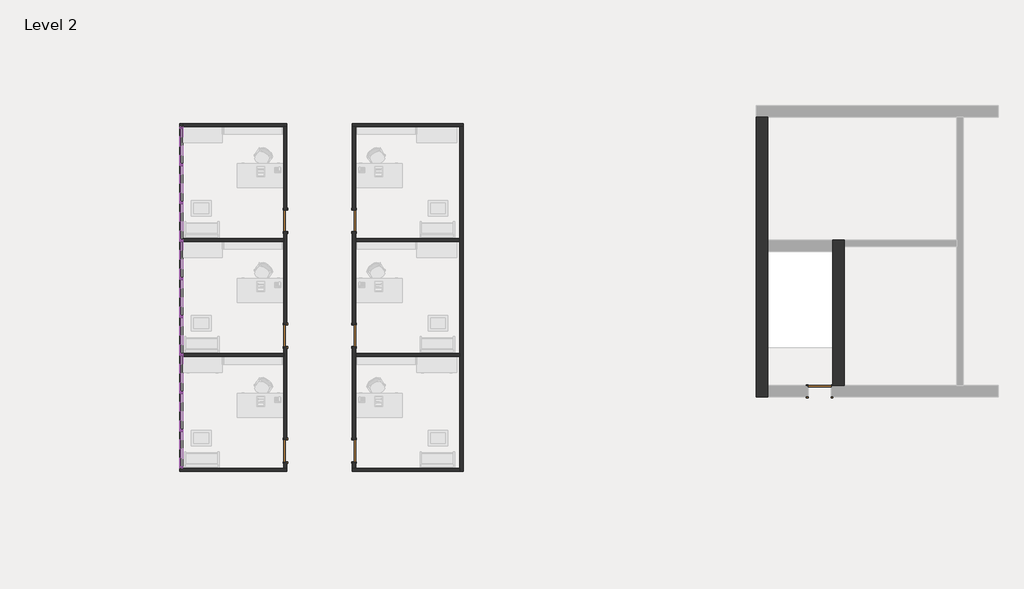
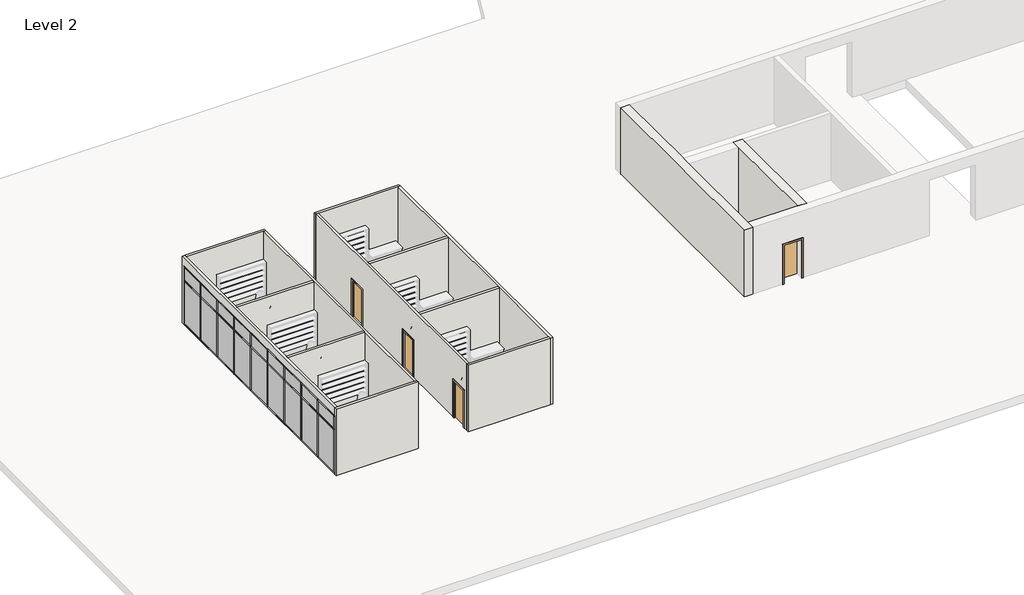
# One storey, part 1 of 2: 47 members, 18 plates, 14 walls, 7 doors.
"""IFC4 building model written with IfcOpenShell, lengths in millimetres."""

from ifc_helpers import new_model, si_unit, frame, origin, place, context, project, spatial, polyline, outline, extrude, faceted_brep, transform, mapped, element, save
from components import door_82111de5, door_92889684, door_3c99239a, member_fc09b6aa, member_9597caa3, member_b2bde9e6, member_131a91bd, member_8e4b14e5, member_ef392650, member_3251410a, system_panel_glazed_f771dc8d, system_panel_glazed_f1d9fa5b, system_panel_glazed_43c0bd6e, system_panel_glazed_38f416ca

model = new_model("IFC4")

# Units and contexts
model_context = context("Model", 3, world=origin())
ifc_project = project(units=[si_unit("LENGTHUNIT", "METRE", prefix="MILLI")], contexts=[model_context])

# Site, building, storey
site = spatial("IfcSite", under=ifc_project)
building = spatial("IfcBuilding", under=site)
storey = spatial("IfcBuildingStorey", under=building, Name="Level 2", Elevation=3657.6)

# Doors
placement = place(None, origin())
door_shape = door_82111de5(model_context)
element("IfcDoor", 1, ObjectType="Single-Flush : 34\" x 80\"", at=placement, inside=storey, context=model_context, shape_type="MappedRepresentation", body=[
    mapped(door_shape, transform((-51923.5856498, -16957.0103492, 3657.6), x_axis=(0.0, -1.0, 0.0), y_axis=(1.0, 0.0, 0.0), z_axis=(0.0, 0.0, 1.0))),
])
element("IfcDoor", 2, ObjectType="Single-Flush : 34\" x 80\"", at=placement, inside=storey, context=model_context, shape_type="MappedRepresentation", body=[
    mapped(door_shape, transform((-51923.5856498, -12385.0103492, 3657.6), x_axis=(0.0, -1.0, 0.0), y_axis=(1.0, 0.0, 0.0), z_axis=(0.0, 0.0, 1.0))),
])
element("IfcDoor", 3, ObjectType="Single-Flush : 34\" x 80\"", at=placement, inside=storey, context=model_context, shape_type="MappedRepresentation", body=[
    mapped(door_shape, transform((-51923.5856498, -7813.0103492, 3657.6), x_axis=(0.0, -1.0, 0.0), y_axis=(1.0, 0.0, 0.0), z_axis=(0.0, 0.0, 1.0))),
])
door_2_shape = door_92889684(model_context)
element("IfcDoor", 4, ObjectType="Single-Flush : 34\" x 80\"", at=placement, inside=storey, context=model_context, shape_type="MappedRepresentation", body=[
    mapped(door_2_shape, transform((-49194.8999355, -16957.0103492, 3657.6), x_axis=(0.0, -1.0, 0.0), y_axis=(1.0, 0.0, 0.0), z_axis=(0.0, 0.0, 1.0))),
])
element("IfcDoor", 5, ObjectType="Single-Flush : 34\" x 80\"", at=placement, inside=storey, context=model_context, shape_type="MappedRepresentation", body=[
    mapped(door_2_shape, transform((-49194.8999355, -12385.0103492, 3657.6), x_axis=(0.0, -1.0, 0.0), y_axis=(1.0, 0.0, 0.0), z_axis=(0.0, 0.0, 1.0))),
])
element("IfcDoor", 6, ObjectType="Single-Flush : 34\" x 80\"", at=placement, inside=storey, context=model_context, shape_type="MappedRepresentation", body=[
    mapped(door_2_shape, transform((-49194.8999355, -7813.0103492, 3657.6), x_axis=(0.0, -1.0, 0.0), y_axis=(1.0, 0.0, 0.0), z_axis=(0.0, 0.0, 1.0))),
])
door_3_shape = door_3c99239a(model_context)
element("IfcDoor", 7, ObjectType="Single-Flush : 36\" x 84\"", at=placement, inside=storey, context=model_context, shape_type="MappedRepresentation", body=[
    mapped(door_3_shape, transform((-30700.0713641, -14594.8103492, 3657.6), x_axis=(1.0, 0.0, 0.0), y_axis=(0.0, 1.0, 0.0), z_axis=(0.0, 0.0, 1.0))),
])

# Members
member_shape = member_fc09b6aa(model_context)
element("IfcMember", 8, ObjectType="Rectangular Mullion : 2.5\" x 5\" rectangular", at=placement, inside=storey, context=model_context, shape_type="MappedRepresentation", body=[
    mapped(member_shape, transform((-56063.7856498, -14635.7325714, 6096.0), x_axis=(0.0, 0.0, 1.0), y_axis=(1.0, 0.0, 0.0), z_axis=(0.0, 1.0, 0.0))),
])
element("IfcMember", 9, ObjectType="Rectangular Mullion : 2.5\" x 5\" rectangular", at=placement, inside=storey, context=model_context, shape_type="MappedRepresentation", body=[
    mapped(member_shape, transform((-56063.7856498, -13125.8436825, 6096.0), x_axis=(0.0, 0.0, 1.0), y_axis=(1.0, 0.0, 0.0), z_axis=(0.0, 1.0, 0.0))),
])
element("IfcMember", 10, ObjectType="Rectangular Mullion : 2.5\" x 5\" rectangular", at=placement, inside=storey, context=model_context, shape_type="MappedRepresentation", body=[
    mapped(member_shape, transform((-56063.7856498, -11615.9547936, 6096.0), x_axis=(0.0, 0.0, 1.0), y_axis=(1.0, 0.0, 0.0), z_axis=(0.0, 1.0, 0.0))),
])
element("IfcMember", 11, ObjectType="Rectangular Mullion : 2.5\" x 5\" rectangular", at=placement, inside=storey, context=model_context, shape_type="MappedRepresentation", body=[
    mapped(member_shape, transform((-56063.7856498, -10106.0659048, 6096.0), x_axis=(0.0, 0.0, 1.0), y_axis=(1.0, 0.0, 0.0), z_axis=(0.0, 1.0, 0.0))),
])
element("IfcMember", 12, ObjectType="Rectangular Mullion : 2.5\" x 5\" rectangular", at=placement, inside=storey, context=model_context, shape_type="MappedRepresentation", body=[
    mapped(member_shape, transform((-56063.7856498, -8596.1770159, 6096.0), x_axis=(0.0, 0.0, 1.0), y_axis=(1.0, 0.0, 0.0), z_axis=(0.0, 1.0, 0.0))),
])
element("IfcMember", 13, ObjectType="Rectangular Mullion : 2.5\" x 5\" rectangular", at=placement, inside=storey, context=model_context, shape_type="MappedRepresentation", body=[
    mapped(member_shape, transform((-56063.7856498, -7086.288127, 6096.0), x_axis=(0.0, 0.0, 1.0), y_axis=(1.0, 0.0, 0.0), z_axis=(0.0, 1.0, 0.0))),
])
element("IfcMember", 14, ObjectType="Rectangular Mullion : 2.5\" x 5\" rectangular", at=placement, inside=storey, context=model_context, shape_type="MappedRepresentation", body=[
    mapped(member_shape, transform((-56063.7856498, -5576.3992381, 6096.0), x_axis=(0.0, 0.0, 1.0), y_axis=(1.0, 0.0, 0.0), z_axis=(0.0, 1.0, 0.0))),
])
member_2_shape = member_9597caa3(model_context)
element("IfcMember", 15, ObjectType="Rectangular Mullion : 2.5\" x 5\" rectangular", at=placement, inside=storey, context=model_context, shape_type="MappedRepresentation", body=[
    mapped(member_2_shape, transform((-56063.7856498, -16145.6214603, 3721.1), x_axis=(0.0, 1.0, 0.0), y_axis=(1.0, 0.0, 0.0), z_axis=(0.0, 0.0, -1.0))),
])
element("IfcMember", 16, ObjectType="Rectangular Mullion : 2.5\" x 5\" rectangular", at=placement, inside=storey, context=model_context, shape_type="MappedRepresentation", body=[
    mapped(member_2_shape, transform((-56063.7856498, -14635.7325714, 3721.1), x_axis=(0.0, 1.0, 0.0), y_axis=(1.0, 0.0, 0.0), z_axis=(0.0, 0.0, -1.0))),
])
element("IfcMember", 17, ObjectType="Rectangular Mullion : 2.5\" x 5\" rectangular", at=placement, inside=storey, context=model_context, shape_type="MappedRepresentation", body=[
    mapped(member_2_shape, transform((-56063.7856498, -13125.8436825, 3721.1), x_axis=(0.0, 1.0, 0.0), y_axis=(1.0, 0.0, 0.0), z_axis=(0.0, 0.0, -1.0))),
])
element("IfcMember", 18, ObjectType="Rectangular Mullion : 2.5\" x 5\" rectangular", at=placement, inside=storey, context=model_context, shape_type="MappedRepresentation", body=[
    mapped(member_2_shape, transform((-56063.7856498, -11615.9547936, 3721.1), x_axis=(0.0, 1.0, 0.0), y_axis=(1.0, 0.0, 0.0), z_axis=(0.0, 0.0, -1.0))),
])
element("IfcMember", 19, ObjectType="Rectangular Mullion : 2.5\" x 5\" rectangular", at=placement, inside=storey, context=model_context, shape_type="MappedRepresentation", body=[
    mapped(member_2_shape, transform((-56063.7856498, -10106.0659048, 3721.1), x_axis=(0.0, 1.0, 0.0), y_axis=(1.0, 0.0, 0.0), z_axis=(0.0, 0.0, -1.0))),
])
element("IfcMember", 20, ObjectType="Rectangular Mullion : 2.5\" x 5\" rectangular", at=placement, inside=storey, context=model_context, shape_type="MappedRepresentation", body=[
    mapped(member_2_shape, transform((-56063.7856498, -8596.1770159, 3721.1), x_axis=(0.0, 1.0, 0.0), y_axis=(1.0, 0.0, 0.0), z_axis=(0.0, 0.0, -1.0))),
])
element("IfcMember", 21, ObjectType="Rectangular Mullion : 2.5\" x 5\" rectangular", at=placement, inside=storey, context=model_context, shape_type="MappedRepresentation", body=[
    mapped(member_2_shape, transform((-56063.7856498, -7086.288127, 3721.1), x_axis=(0.0, 1.0, 0.0), y_axis=(1.0, 0.0, 0.0), z_axis=(0.0, 0.0, -1.0))),
])
element("IfcMember", 22, ObjectType="Rectangular Mullion : 2.5\" x 5\" rectangular", at=placement, inside=storey, context=model_context, shape_type="MappedRepresentation", body=[
    mapped(member_2_shape, transform((-56063.7856498, -5576.3992381, 3721.1), x_axis=(0.0, 1.0, 0.0), y_axis=(1.0, 0.0, 0.0), z_axis=(0.0, 0.0, -1.0))),
])
member_3_shape = member_b2bde9e6(model_context)
element("IfcMember", 23, ObjectType="Rectangular Mullion : 2.5\" x 5\" rectangular", at=placement, inside=storey, context=model_context, shape_type="MappedRepresentation", body=[
    mapped(member_3_shape, transform((-56063.7856498, -4066.5103492, 3721.1), x_axis=(0.0, 1.0, 0.0), y_axis=(1.0, 0.0, 0.0), z_axis=(0.0, 0.0, -1.0))),
])
element("IfcMember", 24, ObjectType="Rectangular Mullion : 2.5\" x 5\" rectangular", at=placement, inside=storey, context=model_context, shape_type="MappedRepresentation", body=[
    mapped(member_3_shape, transform((-56063.7856498, -17655.5103492, 6096.0), x_axis=(0.0, -1.0, 0.0), y_axis=(1.0, 0.0, 0.0), z_axis=(0.0, 0.0, 1.0))),
])
member_4_shape = member_131a91bd(model_context)
element("IfcMember", 25, ObjectType="Rectangular Mullion : 2.5\" x 5\" rectangular", at=placement, inside=storey, context=model_context, shape_type="MappedRepresentation", body=[
    mapped(member_4_shape, transform((-56063.7856498, -4066.5103492, 6883.4), x_axis=(0.0, 0.0, 1.0), y_axis=(1.0, 0.0, 0.0), z_axis=(0.0, 1.0, 0.0))),
])
element("IfcMember", 26, ObjectType="Rectangular Mullion : 2.5\" x 5\" rectangular", at=placement, inside=storey, context=model_context, shape_type="MappedRepresentation", body=[
    mapped(member_4_shape, transform((-56063.7856498, -16145.6214603, 6883.4), x_axis=(0.0, 0.0, 1.0), y_axis=(1.0, 0.0, 0.0), z_axis=(0.0, 1.0, 0.0))),
])
element("IfcMember", 27, ObjectType="Rectangular Mullion : 2.5\" x 5\" rectangular", at=placement, inside=storey, context=model_context, shape_type="MappedRepresentation", body=[
    mapped(member_4_shape, transform((-56063.7856498, -14635.7325714, 6883.4), x_axis=(0.0, 0.0, 1.0), y_axis=(1.0, 0.0, 0.0), z_axis=(0.0, 1.0, 0.0))),
])
element("IfcMember", 28, ObjectType="Rectangular Mullion : 2.5\" x 5\" rectangular", at=placement, inside=storey, context=model_context, shape_type="MappedRepresentation", body=[
    mapped(member_4_shape, transform((-56063.7856498, -13125.8436825, 6883.4), x_axis=(0.0, 0.0, 1.0), y_axis=(1.0, 0.0, 0.0), z_axis=(0.0, 1.0, 0.0))),
])
element("IfcMember", 29, ObjectType="Rectangular Mullion : 2.5\" x 5\" rectangular", at=placement, inside=storey, context=model_context, shape_type="MappedRepresentation", body=[
    mapped(member_4_shape, transform((-56063.7856498, -11615.9547936, 6883.4), x_axis=(0.0, 0.0, 1.0), y_axis=(1.0, 0.0, 0.0), z_axis=(0.0, 1.0, 0.0))),
])
element("IfcMember", 30, ObjectType="Rectangular Mullion : 2.5\" x 5\" rectangular", at=placement, inside=storey, context=model_context, shape_type="MappedRepresentation", body=[
    mapped(member_4_shape, transform((-56063.7856498, -10106.0659048, 6883.4), x_axis=(0.0, 0.0, 1.0), y_axis=(1.0, 0.0, 0.0), z_axis=(0.0, 1.0, 0.0))),
])
element("IfcMember", 31, ObjectType="Rectangular Mullion : 2.5\" x 5\" rectangular", at=placement, inside=storey, context=model_context, shape_type="MappedRepresentation", body=[
    mapped(member_4_shape, transform((-56063.7856498, -8596.1770159, 6883.4), x_axis=(0.0, 0.0, 1.0), y_axis=(1.0, 0.0, 0.0), z_axis=(0.0, 1.0, 0.0))),
])
element("IfcMember", 32, ObjectType="Rectangular Mullion : 2.5\" x 5\" rectangular", at=placement, inside=storey, context=model_context, shape_type="MappedRepresentation", body=[
    mapped(member_4_shape, transform((-56063.7856498, -7086.288127, 6883.4), x_axis=(0.0, 0.0, 1.0), y_axis=(1.0, 0.0, 0.0), z_axis=(0.0, 1.0, 0.0))),
])
element("IfcMember", 33, ObjectType="Rectangular Mullion : 2.5\" x 5\" rectangular", at=placement, inside=storey, context=model_context, shape_type="MappedRepresentation", body=[
    mapped(member_4_shape, transform((-56063.7856498, -5576.3992381, 6883.4), x_axis=(0.0, 0.0, 1.0), y_axis=(1.0, 0.0, 0.0), z_axis=(0.0, 1.0, 0.0))),
])
element("IfcMember", 34, ObjectType="Rectangular Mullion : 2.5\" x 5\" rectangular", at=placement, inside=storey, context=model_context, shape_type="MappedRepresentation", body=[
    mapped(member_4_shape, transform((-56063.7856498, -17655.5103492, 3657.6), x_axis=(0.0, 0.0, -1.0), y_axis=(1.0, 0.0, 0.0), z_axis=(0.0, -1.0, 0.0))),
])
element("IfcMember", 35, ObjectType="Rectangular Mullion : 2.5\" x 5\" rectangular", at=placement, inside=storey, context=model_context, shape_type="MappedRepresentation", body=[
    mapped(member_4_shape, transform((-56063.7856498, -16145.6214603, 3657.6), x_axis=(0.0, 0.0, -1.0), y_axis=(1.0, 0.0, 0.0), z_axis=(0.0, -1.0, 0.0))),
])
element("IfcMember", 36, ObjectType="Rectangular Mullion : 2.5\" x 5\" rectangular", at=placement, inside=storey, context=model_context, shape_type="MappedRepresentation", body=[
    mapped(member_4_shape, transform((-56063.7856498, -14635.7325714, 3657.6), x_axis=(0.0, 0.0, -1.0), y_axis=(1.0, 0.0, 0.0), z_axis=(0.0, -1.0, 0.0))),
])
element("IfcMember", 37, ObjectType="Rectangular Mullion : 2.5\" x 5\" rectangular", at=placement, inside=storey, context=model_context, shape_type="MappedRepresentation", body=[
    mapped(member_4_shape, transform((-56063.7856498, -13125.8436825, 3657.6), x_axis=(0.0, 0.0, -1.0), y_axis=(1.0, 0.0, 0.0), z_axis=(0.0, -1.0, 0.0))),
])
element("IfcMember", 38, ObjectType="Rectangular Mullion : 2.5\" x 5\" rectangular", at=placement, inside=storey, context=model_context, shape_type="MappedRepresentation", body=[
    mapped(member_4_shape, transform((-56063.7856498, -11615.9547936, 3657.6), x_axis=(0.0, 0.0, -1.0), y_axis=(1.0, 0.0, 0.0), z_axis=(0.0, -1.0, 0.0))),
])
element("IfcMember", 39, ObjectType="Rectangular Mullion : 2.5\" x 5\" rectangular", at=placement, inside=storey, context=model_context, shape_type="MappedRepresentation", body=[
    mapped(member_4_shape, transform((-56063.7856498, -10106.0659048, 3657.6), x_axis=(0.0, 0.0, -1.0), y_axis=(1.0, 0.0, 0.0), z_axis=(0.0, -1.0, 0.0))),
])
element("IfcMember", 40, ObjectType="Rectangular Mullion : 2.5\" x 5\" rectangular", at=placement, inside=storey, context=model_context, shape_type="MappedRepresentation", body=[
    mapped(member_4_shape, transform((-56063.7856498, -8596.1770159, 3657.6), x_axis=(0.0, 0.0, -1.0), y_axis=(1.0, 0.0, 0.0), z_axis=(0.0, -1.0, 0.0))),
])
element("IfcMember", 41, ObjectType="Rectangular Mullion : 2.5\" x 5\" rectangular", at=placement, inside=storey, context=model_context, shape_type="MappedRepresentation", body=[
    mapped(member_4_shape, transform((-56063.7856498, -7086.288127, 3657.6), x_axis=(0.0, 0.0, -1.0), y_axis=(1.0, 0.0, 0.0), z_axis=(0.0, -1.0, 0.0))),
])
element("IfcMember", 42, ObjectType="Rectangular Mullion : 2.5\" x 5\" rectangular", at=placement, inside=storey, context=model_context, shape_type="MappedRepresentation", body=[
    mapped(member_4_shape, transform((-56063.7856498, -5576.3992381, 3657.6), x_axis=(0.0, 0.0, -1.0), y_axis=(1.0, 0.0, 0.0), z_axis=(0.0, -1.0, 0.0))),
])
member_5_shape = member_8e4b14e5(model_context)
element("IfcMember", 43, ObjectType="Rectangular Mullion : 2.5\" x 5\" rectangular", at=placement, inside=storey, context=model_context, shape_type="MappedRepresentation", body=[
    mapped(member_5_shape, transform((-56063.7856498, -16145.6214603, 6096.0), x_axis=(0.0, 0.0, 1.0), y_axis=(1.0, 0.0, 0.0), z_axis=(0.0, 1.0, 0.0))),
])
element("IfcMember", 44, ObjectType="Rectangular Mullion : 2.5\" x 5\" rectangular", at=placement, inside=storey, context=model_context, shape_type="MappedRepresentation", body=[
    mapped(member_5_shape, transform((-56063.7856498, -4130.0103492, 6096.0), x_axis=(0.0, 0.0, 1.0), y_axis=(1.0, 0.0, 0.0), z_axis=(0.0, 1.0, 0.0))),
])
member_6_shape = member_ef392650(model_context)
element("IfcMember", 45, ObjectType="Rectangular Mullion : 2.5\" x 5\" rectangular", at=placement, inside=storey, context=model_context, shape_type="MappedRepresentation", body=[
    mapped(member_6_shape, transform((-56063.7856498, -16145.6214603, 6127.75), x_axis=(0.0, 1.0, 0.0), y_axis=(1.0, 0.0, 0.0), z_axis=(0.0, 0.0, -1.0))),
])
element("IfcMember", 46, ObjectType="Rectangular Mullion : 2.5\" x 5\" rectangular", at=placement, inside=storey, context=model_context, shape_type="MappedRepresentation", body=[
    mapped(member_6_shape, transform((-56063.7856498, -14635.7325714, 6127.75), x_axis=(0.0, 1.0, 0.0), y_axis=(1.0, 0.0, 0.0), z_axis=(0.0, 0.0, -1.0))),
])
element("IfcMember", 47, ObjectType="Rectangular Mullion : 2.5\" x 5\" rectangular", at=placement, inside=storey, context=model_context, shape_type="MappedRepresentation", body=[
    mapped(member_6_shape, transform((-56063.7856498, -13125.8436825, 6127.75), x_axis=(0.0, 1.0, 0.0), y_axis=(1.0, 0.0, 0.0), z_axis=(0.0, 0.0, -1.0))),
])
element("IfcMember", 48, ObjectType="Rectangular Mullion : 2.5\" x 5\" rectangular", at=placement, inside=storey, context=model_context, shape_type="MappedRepresentation", body=[
    mapped(member_6_shape, transform((-56063.7856498, -11615.9547936, 6127.75), x_axis=(0.0, 1.0, 0.0), y_axis=(1.0, 0.0, 0.0), z_axis=(0.0, 0.0, -1.0))),
])
element("IfcMember", 49, ObjectType="Rectangular Mullion : 2.5\" x 5\" rectangular", at=placement, inside=storey, context=model_context, shape_type="MappedRepresentation", body=[
    mapped(member_6_shape, transform((-56063.7856498, -10106.0659048, 6127.75), x_axis=(0.0, 1.0, 0.0), y_axis=(1.0, 0.0, 0.0), z_axis=(0.0, 0.0, -1.0))),
])
element("IfcMember", 50, ObjectType="Rectangular Mullion : 2.5\" x 5\" rectangular", at=placement, inside=storey, context=model_context, shape_type="MappedRepresentation", body=[
    mapped(member_6_shape, transform((-56063.7856498, -8596.1770159, 6127.75), x_axis=(0.0, 1.0, 0.0), y_axis=(1.0, 0.0, 0.0), z_axis=(0.0, 0.0, -1.0))),
])
element("IfcMember", 51, ObjectType="Rectangular Mullion : 2.5\" x 5\" rectangular", at=placement, inside=storey, context=model_context, shape_type="MappedRepresentation", body=[
    mapped(member_6_shape, transform((-56063.7856498, -7086.288127, 6127.75), x_axis=(0.0, 1.0, 0.0), y_axis=(1.0, 0.0, 0.0), z_axis=(0.0, 0.0, -1.0))),
])
element("IfcMember", 52, ObjectType="Rectangular Mullion : 2.5\" x 5\" rectangular", at=placement, inside=storey, context=model_context, shape_type="MappedRepresentation", body=[
    mapped(member_6_shape, transform((-56063.7856498, -5576.3992381, 6127.75), x_axis=(0.0, 1.0, 0.0), y_axis=(1.0, 0.0, 0.0), z_axis=(0.0, 0.0, -1.0))),
])
member_7_shape = member_3251410a(model_context)
element("IfcMember", 53, ObjectType="Rectangular Mullion : 2.5\" x 5\" rectangular", at=placement, inside=storey, context=model_context, shape_type="MappedRepresentation", body=[
    mapped(member_7_shape, transform((-56063.7856498, -4066.5103492, 6096.0), x_axis=(0.0, 1.0, 0.0), y_axis=(1.0, 0.0, 0.0), z_axis=(0.0, 0.0, -1.0))),
])
element("IfcMember", 54, ObjectType="Rectangular Mullion : 2.5\" x 5\" rectangular", at=placement, inside=storey, context=model_context, shape_type="MappedRepresentation", body=[
    mapped(member_7_shape, transform((-56063.7856498, -17655.5103492, 6819.9), x_axis=(0.0, -1.0, 0.0), y_axis=(1.0, 0.0, 0.0), z_axis=(0.0, 0.0, 1.0))),
])

# Plates
system_panel_glazed_shape = system_panel_glazed_f771dc8d(model_context)
element("IfcPlate", 55, ObjectType="System Panel : Glazed", at=placement, inside=storey, context=model_context, shape_type="MappedRepresentation", body=[
    mapped(system_panel_glazed_shape, transform((-56063.7856498, -16884.6909048, 3721.1), x_axis=(0.0, 1.0, 0.0), y_axis=(-1.0, 0.0, 0.0), z_axis=(0.0, 0.0, 1.0))),
])
element("IfcPlate", 56, ObjectType="System Panel : Glazed", at=placement, inside=storey, context=model_context, shape_type="MappedRepresentation", body=[
    mapped(system_panel_glazed_shape, transform((-56063.7856498, -4837.3297936, 3721.1), x_axis=(0.0, 1.0, 0.0), y_axis=(-1.0, 0.0, 0.0), z_axis=(0.0, 0.0, 1.0))),
])
system_panel_glazed_2_shape = system_panel_glazed_f1d9fa5b(model_context)
element("IfcPlate", 57, ObjectType="System Panel : Glazed", at=placement, inside=storey, context=model_context, shape_type="MappedRepresentation", body=[
    mapped(system_panel_glazed_2_shape, transform((-56063.7856498, -15390.6770159, 3721.1), x_axis=(0.0, 1.0, 0.0), y_axis=(-1.0, 0.0, 0.0), z_axis=(0.0, 0.0, 1.0))),
])
element("IfcPlate", 58, ObjectType="System Panel : Glazed", at=placement, inside=storey, context=model_context, shape_type="MappedRepresentation", body=[
    mapped(system_panel_glazed_2_shape, transform((-56063.7856498, -13880.788127, 3721.1), x_axis=(0.0, 1.0, 0.0), y_axis=(-1.0, 0.0, 0.0), z_axis=(0.0, 0.0, 1.0))),
])
element("IfcPlate", 59, ObjectType="System Panel : Glazed", at=placement, inside=storey, context=model_context, shape_type="MappedRepresentation", body=[
    mapped(system_panel_glazed_2_shape, transform((-56063.7856498, -12370.8992381, 3721.1), x_axis=(0.0, 1.0, 0.0), y_axis=(-1.0, 0.0, 0.0), z_axis=(0.0, 0.0, 1.0))),
])
element("IfcPlate", 60, ObjectType="System Panel : Glazed", at=placement, inside=storey, context=model_context, shape_type="MappedRepresentation", body=[
    mapped(system_panel_glazed_2_shape, transform((-56063.7856498, -10861.0103492, 3721.1), x_axis=(0.0, 1.0, 0.0), y_axis=(-1.0, 0.0, 0.0), z_axis=(0.0, 0.0, 1.0))),
])
element("IfcPlate", 61, ObjectType="System Panel : Glazed", at=placement, inside=storey, context=model_context, shape_type="MappedRepresentation", body=[
    mapped(system_panel_glazed_2_shape, transform((-56063.7856498, -9351.1214603, 3721.1), x_axis=(0.0, 1.0, 0.0), y_axis=(-1.0, 0.0, 0.0), z_axis=(0.0, 0.0, 1.0))),
])
element("IfcPlate", 62, ObjectType="System Panel : Glazed", at=placement, inside=storey, context=model_context, shape_type="MappedRepresentation", body=[
    mapped(system_panel_glazed_2_shape, transform((-56063.7856498, -7841.2325714, 3721.1), x_axis=(0.0, 1.0, 0.0), y_axis=(-1.0, 0.0, 0.0), z_axis=(0.0, 0.0, 1.0))),
])
element("IfcPlate", 63, ObjectType="System Panel : Glazed", at=placement, inside=storey, context=model_context, shape_type="MappedRepresentation", body=[
    mapped(system_panel_glazed_2_shape, transform((-56063.7856498, -6331.3436825, 3721.1), x_axis=(0.0, 1.0, 0.0), y_axis=(-1.0, 0.0, 0.0), z_axis=(0.0, 0.0, 1.0))),
])
system_panel_glazed_3_shape = system_panel_glazed_43c0bd6e(model_context)
element("IfcPlate", 64, ObjectType="System Panel : Glazed", at=placement, inside=storey, context=model_context, shape_type="MappedRepresentation", body=[
    mapped(system_panel_glazed_3_shape, transform((-56063.7856498, -16884.6909048, 6127.75), x_axis=(0.0, 1.0, 0.0), y_axis=(-1.0, 0.0, 0.0), z_axis=(0.0, 0.0, 1.0))),
])
element("IfcPlate", 65, ObjectType="System Panel : Glazed", at=placement, inside=storey, context=model_context, shape_type="MappedRepresentation", body=[
    mapped(system_panel_glazed_3_shape, transform((-56063.7856498, -4837.3297936, 6127.75), x_axis=(0.0, 1.0, 0.0), y_axis=(-1.0, 0.0, 0.0), z_axis=(0.0, 0.0, 1.0))),
])
system_panel_glazed_4_shape = system_panel_glazed_38f416ca(model_context)
element("IfcPlate", 66, ObjectType="System Panel : Glazed", at=placement, inside=storey, context=model_context, shape_type="MappedRepresentation", body=[
    mapped(system_panel_glazed_4_shape, transform((-56063.7856498, -15390.6770159, 6127.75), x_axis=(0.0, 1.0, 0.0), y_axis=(-1.0, 0.0, 0.0), z_axis=(0.0, 0.0, 1.0))),
])
element("IfcPlate", 67, ObjectType="System Panel : Glazed", at=placement, inside=storey, context=model_context, shape_type="MappedRepresentation", body=[
    mapped(system_panel_glazed_4_shape, transform((-56063.7856498, -13880.788127, 6127.75), x_axis=(0.0, 1.0, 0.0), y_axis=(-1.0, 0.0, 0.0), z_axis=(0.0, 0.0, 1.0))),
])
element("IfcPlate", 68, ObjectType="System Panel : Glazed", at=placement, inside=storey, context=model_context, shape_type="MappedRepresentation", body=[
    mapped(system_panel_glazed_4_shape, transform((-56063.7856498, -12370.8992381, 6127.75), x_axis=(0.0, 1.0, 0.0), y_axis=(-1.0, 0.0, 0.0), z_axis=(0.0, 0.0, 1.0))),
])
element("IfcPlate", 69, ObjectType="System Panel : Glazed", at=placement, inside=storey, context=model_context, shape_type="MappedRepresentation", body=[
    mapped(system_panel_glazed_4_shape, transform((-56063.7856498, -10861.0103492, 6127.75), x_axis=(0.0, 1.0, 0.0), y_axis=(-1.0, 0.0, 0.0), z_axis=(0.0, 0.0, 1.0))),
])
element("IfcPlate", 70, ObjectType="System Panel : Glazed", at=placement, inside=storey, context=model_context, shape_type="MappedRepresentation", body=[
    mapped(system_panel_glazed_4_shape, transform((-56063.7856498, -9351.1214603, 6127.75), x_axis=(0.0, 1.0, 0.0), y_axis=(-1.0, 0.0, 0.0), z_axis=(0.0, 0.0, 1.0))),
])
element("IfcPlate", 71, ObjectType="System Panel : Glazed", at=placement, inside=storey, context=model_context, shape_type="MappedRepresentation", body=[
    mapped(system_panel_glazed_4_shape, transform((-56063.7856498, -7841.2325714, 6127.75), x_axis=(0.0, 1.0, 0.0), y_axis=(-1.0, 0.0, 0.0), z_axis=(0.0, 0.0, 1.0))),
])
element("IfcPlate", 72, ObjectType="System Panel : Glazed", at=placement, inside=storey, context=model_context, shape_type="MappedRepresentation", body=[
    mapped(system_panel_glazed_4_shape, transform((-56063.7856498, -6331.3436825, 6127.75), x_axis=(0.0, 1.0, 0.0), y_axis=(-1.0, 0.0, 0.0), z_axis=(0.0, 0.0, 1.0))),
])

# Walls
element("IfcWall", 73, ObjectType="Core-shaft 18\" Concrete", at=placement, inside=storey, context=model_context, shape_type="Brep", body=[
    faceted_brep([(-32750.2142212, -14823.4103492, 3657.6), (-32750.2142212, -14366.2103492, 3657.6), (-32750.2142212, -9032.2103492, 3657.6), (-32750.2142212, -8575.0103492, 3657.6), (-32750.2142212, -3698.2103492, 3657.6), (-32750.2142212, -3698.2103492, 7315.2), (-32750.2142212, -8575.0103492, 7315.2), (-32750.2142212, -9032.2103492, 7315.2), (-32750.2142212, -14366.2103492, 7315.2), (-32750.2142212, -14823.4103492, 7315.2), (-33207.4142212, -14823.4103492, 3657.6), (-33207.4142212, -14823.4103492, 7315.2), (-33207.4142212, -3698.2103492, 7315.2), (-33207.4142212, -3698.2103492, 3657.6)], [[[0, 1, 2, 3, 4, 5, 6, 7, 8, 9]], [[10, 11, 12, 13]], [[4, 3, 2, 1, 0, 10, 13]], [[9, 8, 7, 6, 5, 12, 11]], [[0, 9, 11, 10]], [[5, 4, 13, 12]]]),
])
element("IfcWall", 74, ObjectType="Core-shaft 18\" Concrete", at=placement, inside=storey, context=model_context, shape_type="Brep", body=[
    faceted_brep([(-29709.4713641, -14366.2103492, 3657.6), (-29709.4713641, -8829.0103492, 3657.6), (-29709.4713641, -8575.0103492, 3657.6), (-29709.4713641, -8575.0103492, 7315.2), (-29709.4713641, -8829.0103492, 7315.2), (-29709.4713641, -14366.2103492, 7315.2), (-30166.6713641, -14366.2103492, 3657.6), (-30166.6713641, -14366.2103492, 7315.2), (-30166.6713641, -9032.2103492, 7315.2), (-30166.6713641, -8575.0103492, 7315.2), (-30166.6713641, -8575.0103492, 3657.6), (-30166.6713641, -9032.2103492, 3657.6)], [[[0, 1, 2, 3, 4, 5]], [[6, 7, 8, 9, 10, 11]], [[2, 1, 0, 6, 11, 10]], [[5, 4, 3, 9, 8, 7]], [[3, 2, 10, 9]], [[0, 5, 7, 6]]]),
])
element("IfcWall", 75, ObjectType="Interior - Generic - 5\"", at=placement, inside=storey, context=model_context, shape_type="Brep", body=[
    faceted_brep([(-44864.1999355, -3939.5103492, 3657.6), (-49258.3999355, -3939.5103492, 3657.6), (-49258.3999355, -3939.5103492, 7315.2), (-44864.1999355, -3939.5103492, 7315.2), (-44864.1999355, -4066.5103492, 3657.6), (-44864.1999355, -4066.5103492, 7315.2), (-44991.1999355, -4066.5103492, 7315.2), (-49131.3999355, -4066.5103492, 7315.2), (-49258.3999355, -4066.5103492, 7315.2), (-49258.3999355, -4066.5103492, 3657.6), (-49131.3999355, -4066.5103492, 3657.6), (-44991.1999355, -4066.5103492, 3657.6)], [[[0, 1, 2, 3]], [[4, 5, 6, 7, 8, 9, 10, 11]], [[1, 0, 4, 11, 10, 9]], [[3, 2, 8, 7, 6, 5]], [[0, 3, 5, 4]], [[2, 1, 9, 8]]]),
])
element("IfcWall", 76, ObjectType="Interior - Generic - 5\"", at=placement, inside=storey, context=model_context, shape_type="Brep", body=[
    faceted_brep([(-44864.1999355, -17782.5103492, 3657.6), (-44864.1999355, -4066.5103492, 3657.6), (-44864.1999355, -4066.5103492, 7315.2), (-44864.1999355, -17782.5103492, 7315.2), (-44991.1999355, -17782.5103492, 3657.6), (-44991.1999355, -17782.5103492, 7315.2), (-44991.1999355, -17655.5103492, 7315.2), (-44991.1999355, -13210.5103492, 7315.2), (-44991.1999355, -13083.5103492, 7315.2), (-44991.1999355, -8638.5103492, 7315.2), (-44991.1999355, -8511.5103492, 7315.2), (-44991.1999355, -4066.5103492, 7315.2), (-44991.1999355, -4066.5103492, 3657.6), (-44991.1999355, -8511.5103492, 3657.6), (-44991.1999355, -8638.5103492, 3657.6), (-44991.1999355, -13083.5103492, 3657.6), (-44991.1999355, -13210.5103492, 3657.6), (-44991.1999355, -17655.5103492, 3657.6)], [[[0, 1, 2, 3]], [[4, 5, 6, 7, 8, 9, 10, 11, 12, 13, 14, 15, 16, 17]], [[1, 0, 4, 17, 16, 15, 14, 13, 12]], [[3, 2, 11, 10, 9, 8, 7, 6, 5]], [[0, 3, 5, 4]], [[2, 1, 12, 11]]]),
])
element("IfcWall", 77, ObjectType="Interior - Generic - 5\"", at=placement, inside=storey, context=model_context, shape_type="Brep", body=[
    faceted_brep([(-56127.2856498, -17782.5103492, 3657.6), (-51860.0856498, -17782.5103492, 3657.6), (-51860.0856498, -17782.5103492, 7315.2), (-56127.2856498, -17782.5103492, 7315.2), (-56127.2856498, -17655.5103492, 3657.6), (-56127.2856498, -17655.5103492, 7315.2), (-51987.0856498, -17655.5103492, 7315.2), (-51860.0856498, -17655.5103492, 7315.2), (-51860.0856498, -17655.5103492, 3657.6), (-51987.0856498, -17655.5103492, 3657.6)], [[[0, 1, 2, 3]], [[4, 5, 6, 7, 8, 9]], [[1, 0, 4, 9, 8]], [[3, 2, 7, 6, 5]], [[0, 3, 5, 4]], [[2, 1, 8, 7]]]),
])
element("IfcWall", 78, ObjectType="Interior - Generic - 5\"", at=placement, inside=storey, context=model_context, shape_type="Brep", body=[
    faceted_brep([(-56127.2856498, -17655.5103492, 7315.2), (-56127.2856498, -3939.5103492, 7315.2), (-56127.2856498, -3939.5103492, 3657.6), (-56127.2856498, -4066.5103492, 3657.6), (-56127.2856498, -4066.5103492, 6883.4), (-56127.2856498, -17655.5103492, 6883.4), (-56000.2856498, -3939.5103492, 7315.2), (-56000.2856498, -4066.5103492, 7315.2), (-56000.2856498, -8511.5103492, 7315.2), (-56000.2856498, -8638.5103492, 7315.2), (-56000.2856498, -13083.5103492, 7315.2), (-56000.2856498, -13210.5103492, 7315.2), (-56000.2856498, -17655.5103492, 7315.2), (-56000.2856498, -17655.5103492, 6883.4), (-56000.2856498, -4066.5103492, 6883.4), (-56000.2856498, -4066.5103492, 3657.6), (-56000.2856498, -3939.5103492, 3657.6)], [[[0, 1, 2, 3, 4, 5]], [[6, 7, 8, 9, 10, 11, 12, 13, 14, 15, 16]], [[2, 16, 15, 3]], [[1, 0, 12, 11, 10, 9, 8, 7, 6]], [[2, 1, 6, 16]], [[12, 0, 5, 13]], [[14, 4, 3, 15]], [[4, 14, 13, 5]]]),
])
element("IfcWall", 79, ObjectType="Interior - Generic - 5\"", at=placement, inside=storey, context=model_context, shape_type="Brep", body=[
    faceted_brep([(-49131.3999355, -11953.2103492, 3657.6), (-49131.3999355, -8638.5103492, 3657.6), (-49131.3999355, -8511.5103492, 3657.6), (-49131.3999355, -8244.8103492, 3657.6), (-49131.3999355, -8244.8103492, 5689.6), (-49131.3999355, -7381.2103492, 5689.6), (-49131.3999355, -7381.2103492, 3657.6), (-49131.3999355, -4066.5103492, 3657.6), (-49131.3999355, -4066.5103492, 7315.2), (-49131.3999355, -8511.5103492, 7315.2), (-49131.3999355, -8638.5103492, 7315.2), (-49131.3999355, -13083.5103492, 7315.2), (-49131.3999355, -13210.5103492, 7315.2), (-49131.3999355, -17655.5103492, 7315.2), (-49131.3999355, -17655.5103492, 3657.6), (-49131.3999355, -17388.8103492, 3657.6), (-49131.3999355, -17388.8103492, 5689.6), (-49131.3999355, -16525.2103492, 5689.6), (-49131.3999355, -16525.2103492, 3657.6), (-49131.3999355, -13210.5103492, 3657.6), (-49131.3999355, -13083.5103492, 3657.6), (-49131.3999355, -12816.8103492, 3657.6), (-49131.3999355, -12816.8103492, 5689.6), (-49131.3999355, -11953.2103492, 5689.6), (-49258.3999355, -8244.8103492, 5689.6), (-49258.3999355, -8244.8103492, 3657.6), (-49258.3999355, -11953.2103492, 3657.6), (-49258.3999355, -11953.2103492, 5689.6), (-49258.3999355, -12816.8103492, 5689.6), (-49258.3999355, -12816.8103492, 3657.6), (-49258.3999355, -16525.2103492, 3657.6), (-49258.3999355, -16525.2103492, 5689.6), (-49258.3999355, -17388.8103492, 5689.6), (-49258.3999355, -17388.8103492, 3657.6), (-49258.3999355, -17655.5103492, 3657.6), (-49258.3999355, -17655.5103492, 7315.2), (-49258.3999355, -4066.5103492, 7315.2), (-49258.3999355, -4066.5103492, 3657.6), (-49258.3999355, -7381.2103492, 3657.6), (-49258.3999355, -7381.2103492, 5689.6)], [[[0, 1, 2, 3, 4, 5, 6, 7, 8, 9, 10, 11, 12, 13, 14, 15, 16, 17, 18, 19, 20, 21, 22, 23]], [[24, 25, 26, 27, 28, 29, 30, 31, 32, 33, 34, 35, 36, 37, 38, 39]], [[34, 33, 15, 14]], [[30, 29, 21, 20, 19, 18]], [[38, 37, 7, 6]], [[26, 25, 3, 2, 1, 0]], [[13, 12, 11, 10, 9, 8, 36, 35]], [[8, 7, 37, 36]], [[14, 13, 35, 34]], [[16, 15, 33, 32]], [[17, 16, 32, 31]], [[18, 17, 31, 30]], [[22, 21, 29, 28]], [[23, 22, 28, 27]], [[0, 23, 27, 26]], [[4, 3, 25, 24]], [[5, 4, 24, 39]], [[6, 5, 39, 38]]]),
])
element("IfcWall", 80, ObjectType="Interior - Generic - 5\"", at=placement, inside=storey, context=model_context, shape_type="Brep", body=[
    faceted_brep([(-51987.0856498, -8244.8103492, 5689.6), (-51987.0856498, -8244.8103492, 3657.6), (-51987.0856498, -8511.5103492, 3657.6), (-51987.0856498, -8638.5103492, 3657.6), (-51987.0856498, -11953.2103492, 3657.6), (-51987.0856498, -11953.2103492, 5689.6), (-51987.0856498, -12816.8103492, 5689.6), (-51987.0856498, -12816.8103492, 3657.6), (-51987.0856498, -13083.5103492, 3657.6), (-51987.0856498, -13210.5103492, 3657.6), (-51987.0856498, -16525.2103492, 3657.6), (-51987.0856498, -16525.2103492, 5689.6), (-51987.0856498, -17388.8103492, 5689.6), (-51987.0856498, -17388.8103492, 3657.6), (-51987.0856498, -17655.5103492, 3657.6), (-51987.0856498, -17655.5103492, 7315.2), (-51987.0856498, -13210.5103492, 7315.2), (-51987.0856498, -13083.5103492, 7315.2), (-51987.0856498, -8638.5103492, 7315.2), (-51987.0856498, -8511.5103492, 7315.2), (-51987.0856498, -4066.5103492, 7315.2), (-51987.0856498, -4066.5103492, 3657.6), (-51987.0856498, -7381.2103492, 3657.6), (-51987.0856498, -7381.2103492, 5689.6), (-51860.0856498, -11953.2103492, 3657.6), (-51860.0856498, -8244.8103492, 3657.6), (-51860.0856498, -8244.8103492, 5689.6), (-51860.0856498, -7381.2103492, 5689.6), (-51860.0856498, -7381.2103492, 3657.6), (-51860.0856498, -4066.5103492, 3657.6), (-51860.0856498, -4066.5103492, 7315.2), (-51860.0856498, -17655.5103492, 7315.2), (-51860.0856498, -17655.5103492, 3657.6), (-51860.0856498, -17388.8103492, 3657.6), (-51860.0856498, -17388.8103492, 5689.6), (-51860.0856498, -16525.2103492, 5689.6), (-51860.0856498, -16525.2103492, 3657.6), (-51860.0856498, -12816.8103492, 3657.6), (-51860.0856498, -12816.8103492, 5689.6), (-51860.0856498, -11953.2103492, 5689.6)], [[[0, 1, 2, 3, 4, 5, 6, 7, 8, 9, 10, 11, 12, 13, 14, 15, 16, 17, 18, 19, 20, 21, 22, 23]], [[24, 25, 26, 27, 28, 29, 30, 31, 32, 33, 34, 35, 36, 37, 38, 39]], [[14, 13, 33, 32]], [[10, 9, 8, 7, 37, 36]], [[22, 21, 29, 28]], [[4, 3, 2, 1, 25, 24]], [[20, 19, 18, 17, 16, 15, 31, 30]], [[21, 20, 30, 29]], [[15, 14, 32, 31]], [[34, 33, 13, 12]], [[35, 34, 12, 11]], [[36, 35, 11, 10]], [[38, 37, 7, 6]], [[39, 38, 6, 5]], [[24, 39, 5, 4]], [[26, 25, 1, 0]], [[27, 26, 0, 23]], [[28, 27, 23, 22]]]),
])
element("IfcWall", 81, ObjectType="Interior - Generic - 5\"", at=placement, inside=storey, context=model_context, shape_type="Brep", body=[
    faceted_brep([(-49258.3999355, -17782.5103492, 3657.6), (-44991.1999355, -17782.5103492, 3657.6), (-44991.1999355, -17782.5103492, 7315.2), (-49258.3999355, -17782.5103492, 7315.2), (-49258.3999355, -17655.5103492, 3657.6), (-49258.3999355, -17655.5103492, 7315.2), (-49131.3999355, -17655.5103492, 7315.2), (-44991.1999355, -17655.5103492, 7315.2), (-44991.1999355, -17655.5103492, 3657.6), (-49131.3999355, -17655.5103492, 3657.6)], [[[0, 1, 2, 3]], [[4, 5, 6, 7, 8, 9]], [[1, 0, 4, 9, 8]], [[3, 2, 7, 6, 5]], [[2, 1, 8, 7]], [[0, 3, 5, 4]]]),
])
element("IfcWall", 82, ObjectType="Interior - Generic - 5\"", at=placement, inside=storey, context=model_context, shape_type="Brep", body=[
    faceted_brep([(-51860.0856498, -3939.5103492, 3657.6), (-56000.2856498, -3939.5103492, 3657.6), (-56000.2856498, -3939.5103492, 7315.2), (-51860.0856498, -3939.5103492, 7315.2), (-51860.0856498, -4066.5103492, 3657.6), (-51860.0856498, -4066.5103492, 7315.2), (-51987.0856498, -4066.5103492, 7315.2), (-56000.2856498, -4066.5103492, 7315.2), (-56000.2856498, -4066.5103492, 3657.6), (-51987.0856498, -4066.5103492, 3657.6)], [[[0, 1, 2, 3]], [[4, 5, 6, 7, 8, 9]], [[1, 0, 4, 9, 8]], [[3, 2, 7, 6, 5]], [[2, 1, 8, 7]], [[0, 3, 5, 4]]]),
])
element("IfcWall", 83, ObjectType="Interior - Generic - 5\"", at=placement, inside=storey, context=model_context, shape_type="SweptSolid", body=[
    extrude(outline(polyline([(-44991.1999355, -8638.5103492), (-49131.3999355, -8638.5103492), (-49131.3999355, -8511.5103492), (-44991.1999355, -8511.5103492), (-44991.1999355, -8638.5103492)])), frame((0.0, 0.0, 3657.6), z_axis=(0.0, 0.0, 1.0), x_axis=(1.0, 0.0, 0.0)), (0.0, 0.0, 1.0), 3657.6),
])
element("IfcWall", 84, ObjectType="Interior - Generic - 5\"", at=placement, inside=storey, context=model_context, shape_type="SweptSolid", body=[
    extrude(outline(polyline([(-44991.1999355, -13210.5103492), (-49131.3999355, -13210.5103492), (-49131.3999355, -13083.5103492), (-44991.1999355, -13083.5103492), (-44991.1999355, -13210.5103492)])), frame((0.0, 0.0, 3657.6), z_axis=(0.0, 0.0, 1.0), x_axis=(1.0, 0.0, 0.0)), (0.0, 0.0, 1.0), 3657.6),
])
element("IfcWall", 85, ObjectType="Interior - Generic - 5\"", at=placement, inside=storey, context=model_context, shape_type="SweptSolid", body=[
    extrude(outline(polyline([(-56000.2856498, -13083.5103492), (-51987.0856498, -13083.5103492), (-51987.0856498, -13210.5103492), (-56000.2856498, -13210.5103492), (-56000.2856498, -13083.5103492)])), frame((0.0, 0.0, 3657.6), z_axis=(0.0, 0.0, 1.0), x_axis=(1.0, 0.0, 0.0)), (0.0, 0.0, 1.0), 3657.6),
])
element("IfcWall", 86, ObjectType="Interior - Generic - 5\"", at=placement, inside=storey, context=model_context, shape_type="SweptSolid", body=[
    extrude(outline(polyline([(-56000.2856498, -8511.5103492), (-51987.0856498, -8511.5103492), (-51987.0856498, -8638.5103492), (-56000.2856498, -8638.5103492), (-56000.2856498, -8511.5103492)])), frame((0.0, 0.0, 3657.6), z_axis=(0.0, 0.0, 1.0), x_axis=(1.0, 0.0, 0.0)), (0.0, 0.0, 1.0), 3657.6),
])

save(model, "model.ifc")
